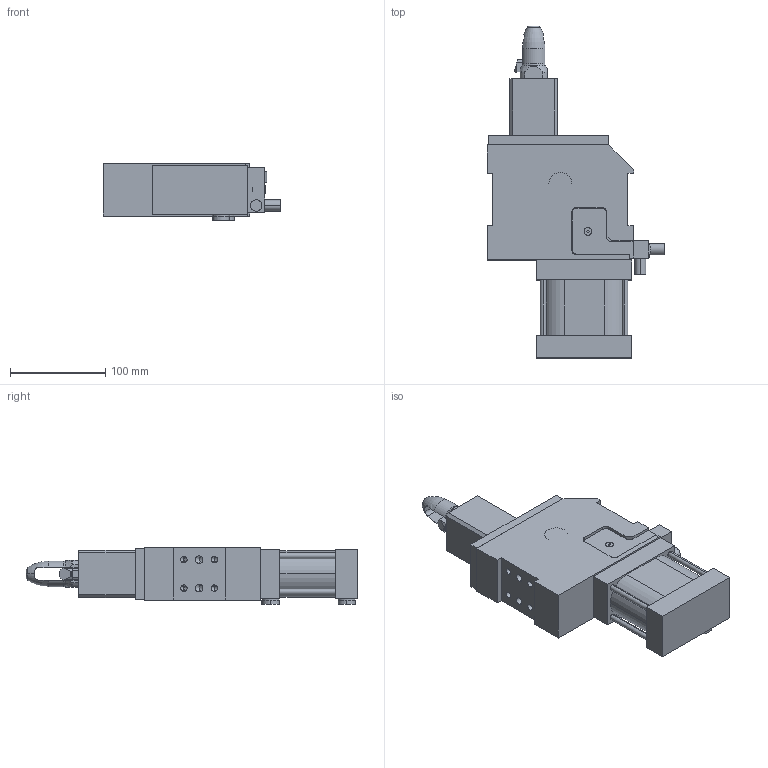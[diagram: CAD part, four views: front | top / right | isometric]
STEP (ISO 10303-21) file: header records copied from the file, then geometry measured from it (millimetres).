
FILE_DESCRIPTION (( 'STEP AP203' ), '1' );
FILE_NAME ('dca63.1i_09844_xyz.STEP', '2017-01-24T16:30:49', ( '' ), ( '' ), 'SwSTEP 2.0', 'SolidWorks 2016', '' );
FILE_SCHEMA (( 'CONFIG_CONTROL_DESIGN' ));
Length unit declared in the file: millimetre
Products named in the file (10): riparo_fc_dca63.1; rondella tappo G1_4; gruppo montante dca63.1; gruppo biella dca63; blocchetto_p&f_0; gruppo gancio dca63; tappo cil G1_4 din908; gruppo perno_tassello 9844_dca63; gruppo cilindro dca63.1; dca63.1i_09844_xyz
Assembly tree (11 placements, depth 2):
  dca63.1i_09844_xyz
    gruppo montante dca63.1
    gruppo cilindro dca63.1
    gruppo gancio dca63
    gruppo biella dca63
    gruppo perno_tassello 9844_dca63
    tappo cil G1_4 din908  x2
    rondella tappo G1_4  x2
    riparo_fc_dca63.1
    blocchetto_p&f_0
Bounding box: 187 x 349 x 59.5 mm (x, y, z)
Volume: 1449441.4 mm3; surface area: 228497.4 mm2
Topology: 11 solids, 11 shells, 452 faces, 1125 edges, 714 vertices
Faces by surface type: plane 237, cylinder 161, cone 44, torus 10
Entity records: 14075 total; most frequent: CARTESIAN_POINT 2505, DIRECTION 2239, ORIENTED_EDGE 2102, EDGE_CURVE 1051, AXIS2_PLACEMENT_3D 780, VERTEX_POINT 686, LINE 679, VECTOR 679
